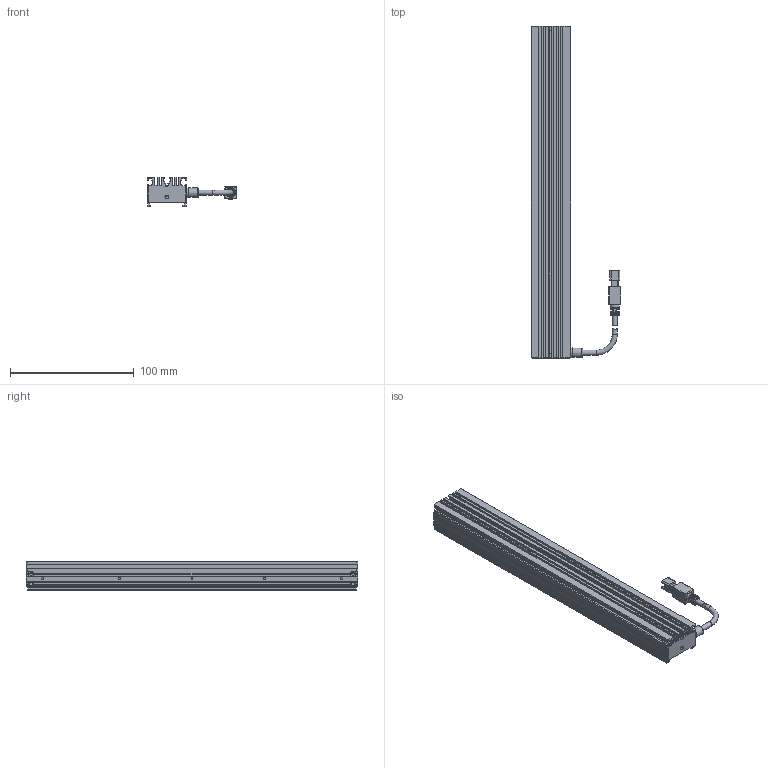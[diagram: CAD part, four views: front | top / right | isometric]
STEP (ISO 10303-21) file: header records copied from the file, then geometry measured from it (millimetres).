
FILE_DESCRIPTION (( 'STEP AP203' ), '1' );
FILE_NAME ('OPT-ILI26832-IR-V1.0尨砩芞.STEP', '2025-01-18T08:14:39', ( '' ), ( '' ), 'SwSTEP 2.0', 'SolidWorks 2016', '' );
FILE_SCHEMA (( 'CONFIG_CONTROL_DESIGN' ));
Length unit declared in the file: millimetre
Products named in the file (1): OPT-ILI26832-IR-V1.0尨砩芞
Bounding box: 72.6 x 268 x 24 mm (x, y, z)
Volume: 147853.2 mm3; surface area: 67313.6 mm2
Topology: 5 solids, 13 shells, 596 faces, 1548 edges, 992 vertices
Faces by surface type: plane 402, cylinder 136, cone 28, bspline 20, torus 10
Full cylindrical faces by diameter (mm): 1.1 x2, 1.4 x2, 1.6 x17, 2 x7, 2.4 x7, 2.5 x2, 3 x2, 3.5 x1, 4.1 x3, 7.5 x2, 8 x1
Entity records: 18251 total; most frequent: CARTESIAN_POINT 4191, ORIENTED_EDGE 2886, DIRECTION 2786, EDGE_CURVE 1443, LINE 986, VECTOR 986, VERTEX_POINT 963, AXIS2_PLACEMENT_3D 900
